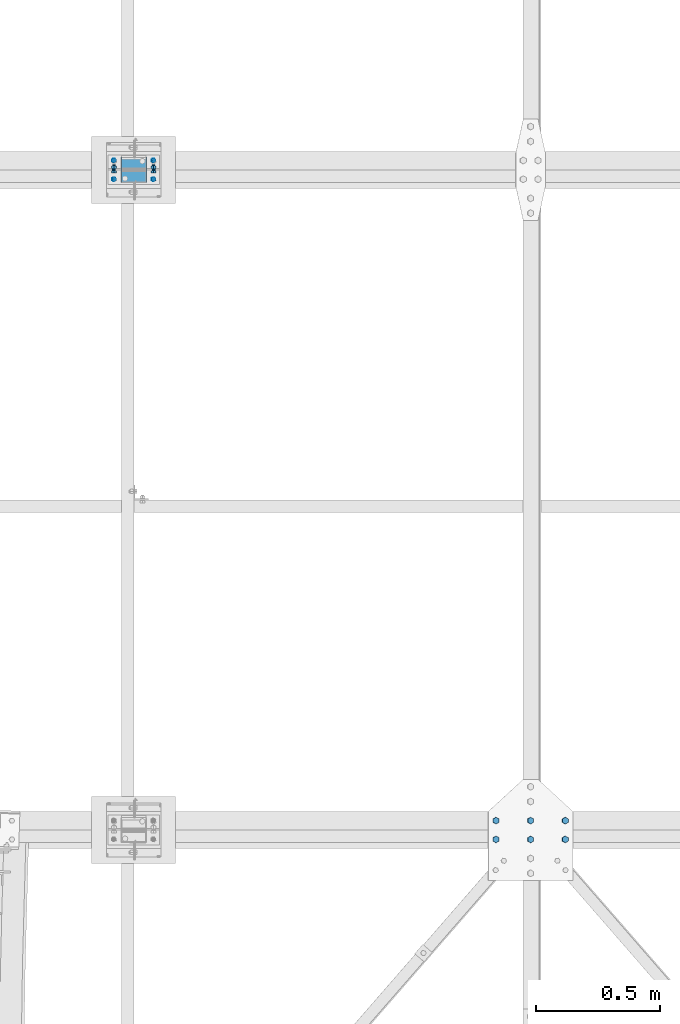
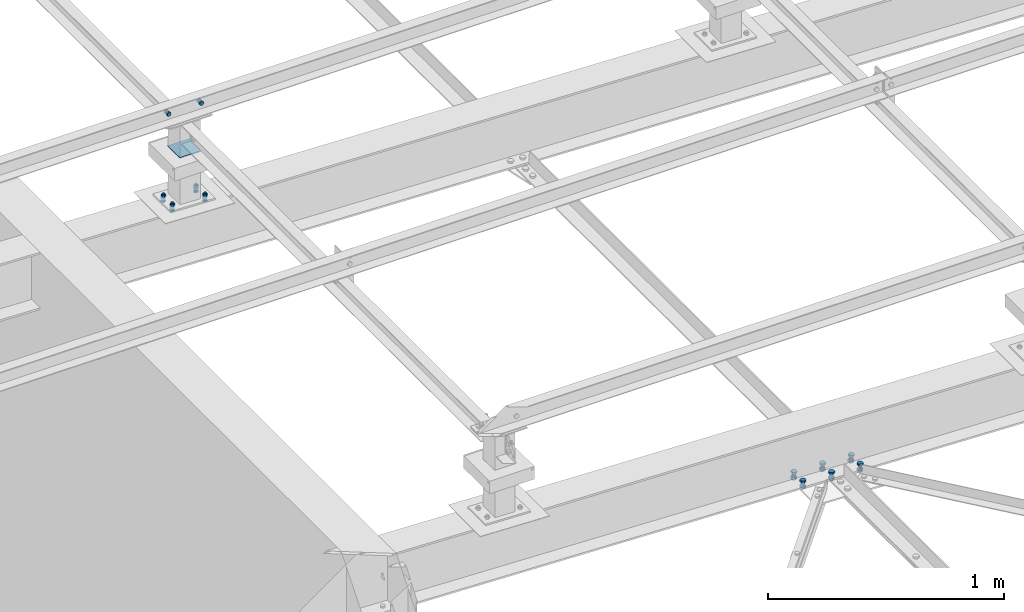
# One storey, part 171 of 3134: 5 mechanical fasteners, 4 elements without a shape of their own.
"""IFC2X3 building model written with IfcOpenShell, lengths in millimetres."""

from ifc_helpers import new_model, si_unit, frame, origin_with_axes, place, context, subcontext, project, spatial, faceted_brep, source, transform, mapped, material, type_object, element, aggregate, save


model = new_model("IFC2X3")

# Units and contexts
model_context = context("Model", 3, precision=1e-05, world=origin_with_axes())
body_context = subcontext(model_context, "Body", "Model", "MODEL_VIEW")
ifc_project = project(units=[si_unit("LENGTHUNIT", "METRE", prefix="MILLI"), si_unit("AREAUNIT", "SQUARE_METRE"), si_unit("VOLUMEUNIT", "CUBIC_METRE"), si_unit("MASSUNIT", "GRAM", prefix="KILO"), si_unit("TIMEUNIT", "SECOND"), si_unit("PLANEANGLEUNIT", "RADIAN"), si_unit("SOLIDANGLEUNIT", "STERADIAN"), si_unit("THERMODYNAMICTEMPERATUREUNIT", "DEGREE_CELSIUS"), si_unit("LUMINOUSINTENSITYUNIT", "LUMEN")], contexts=[model_context])

# Site, building, storey
site_placement = place(None, origin_with_axes())
site = spatial("IfcSite", under=ifc_project, at=site_placement, CompositionType="ELEMENT")
building_placement = place(site_placement, origin_with_axes())
building = spatial("IfcBuilding", under=site, at=building_placement, Name="Undefined", CompositionType="ELEMENT")
storey_placement = place(building_placement, origin_with_axes())
storey = spatial("IfcBuildingStorey", under=building, at=storey_placement, Name="Undefined", CompositionType="ELEMENT", Elevation=0.0)

# Assembly, mechanical fastener
assembly_1_placement = place(storey_placement, origin_with_axes())
assembly_1 = element("IfcElementAssembly", 1, at=assembly_1_placement, inside=storey, Name="300", AssemblyPlace="NOTDEFINED", PredefinedType="RIGID_FRAME")
ifc_material_1 = material(Name="8.8")
mechanical_fastener_type = type_object("IfcMechanicalFastenerType", Name="Bolt assembly")
shared_shape_1 = source(origin_with_axes(), body_context, "Body", "Brep", [
    faceted_brep([(13.856406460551, -23.2000817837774, 0.0), (6.92820323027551, -23.2000817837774, 12.0), (-6.92820323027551, -23.2000817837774, 12.0), (-13.856406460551, -23.2000817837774, 1.69692038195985e-15), (-6.92820323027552, -23.2000817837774, -12.0), (6.9282032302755, -23.2000817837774, -12.0), (6.9282032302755, -13.2000817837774, -12.0), (-6.92820323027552, -13.2000817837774, -12.0), (-13.856406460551, -13.2000817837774, 1.69692038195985e-15), (-6.92820323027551, -13.2000817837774, 12.0), (6.92820323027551, -13.2000817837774, 12.0), (13.856406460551, -13.2000817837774, 0.0), (8.0, -13.2000817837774, 0.0), (6.92820323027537, -13.2000817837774, 4.00000000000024), (3.99999999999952, -13.2000817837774, 6.92820323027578), (-8.29068785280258e-13, -13.2000817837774, 8.0), (-4.00000000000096, -13.2000817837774, 6.92820323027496), (-6.9282032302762, -13.2000817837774, 3.99999999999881), (-8.0, -13.2000817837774, -1.65813757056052e-12), (-6.92820323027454, -13.2000817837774, -4.00000000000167), (-3.99999999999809, -13.2000817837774, -6.92820323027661), (2.47832457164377e-12, -13.2000817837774, -8.0), (4.00000000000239, -13.2000817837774, -6.92820323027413), (6.92820323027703, -13.2000817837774, -3.99999999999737), (6.92820323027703, 21.7999182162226, -3.99999999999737), (4.00000000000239, 21.7999182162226, -6.92820323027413), (2.47832457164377e-12, 21.7999182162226, -8.0), (-3.99999999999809, 21.7999182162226, -6.92820323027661), (-6.92820323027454, 21.7999182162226, -4.00000000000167), (-8.0, 21.7999182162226, -1.65813757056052e-12), (-6.9282032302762, 21.7999182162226, 3.99999999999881), (-4.00000000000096, 21.7999182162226, 6.92820323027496), (-8.29068785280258e-13, 21.7999182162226, 8.0), (3.99999999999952, 21.7999182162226, 6.92820323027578), (6.92820323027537, 21.7999182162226, 4.00000000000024), (8.0, 21.7999182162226, 0.0), (13.856406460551, 3.99999999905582, 0.0), (6.92820323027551, 3.99999999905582, 12.0), (-6.92820323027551, 3.99999999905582, 12.0), (-13.856406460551, 3.99999999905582, 1.69692038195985e-15), (-6.92820323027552, 3.99999999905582, -12.0), (6.9282032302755, 3.99999999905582, -12.0), (6.9282032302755, 16.9999999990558, -12.0), (-6.92820323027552, 16.9999999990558, -12.0), (-13.856406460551, 16.9999999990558, 1.69692038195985e-15), (-6.92820323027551, 16.9999999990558, 12.0), (6.92820323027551, 16.9999999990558, 12.0), (13.856406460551, 16.9999999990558, 0.0)], [[[0, 1, 2, 3, 4, 5]], [[6, 7, 8, 9, 10, 11]], [[0, 11, 10, 1]], [[1, 10, 9, 2]], [[2, 9, 8, 3]], [[3, 8, 7, 4]], [[4, 7, 6, 5]], [[5, 6, 11, 0]], [[12, 13, 14, 15, 16, 17, 18, 19, 20, 21, 22, 23]], [[24, 25, 26, 27, 28, 29, 30, 31, 32, 33, 34, 35]], [[12, 35, 34, 13]], [[13, 34, 33, 14]], [[14, 33, 32, 15]], [[15, 32, 31, 16]], [[16, 31, 30, 17]], [[17, 30, 29, 18]], [[18, 29, 28, 19]], [[19, 28, 27, 20]], [[20, 27, 26, 21]], [[21, 26, 25, 22]], [[22, 25, 24, 23]], [[23, 24, 35, 12]], [[36, 37, 38, 39, 40, 41]], [[42, 43, 44, 45, 46, 47]], [[36, 47, 46, 37]], [[37, 46, 45, 38]], [[38, 45, 44, 39]], [[39, 44, 43, 40]], [[40, 43, 42, 41]], [[41, 42, 47, 36]]]),
    faceted_brep([(9.0, -4.10000000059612, 0.0), (7.79422863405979, -4.10000000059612, 4.50000000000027), (4.49999999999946, -4.10000000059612, 7.79422863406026), (-9.3270238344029e-13, -4.10000000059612, 9.0), (-4.50000000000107, -4.10000000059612, 7.79422863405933), (-7.79422863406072, -4.10000000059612, 4.49999999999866), (-9.0, -4.10000000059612, -1.86540476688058e-12), (-7.79422863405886, -4.10000000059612, -4.50000000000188), (-4.49999999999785, -4.10000000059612, -7.79422863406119), (2.78811514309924e-12, -4.10000000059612, -9.0), (4.50000000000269, -4.10000000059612, -7.7942286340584), (7.79422863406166, -4.10000000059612, -4.49999999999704), (7.79422863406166, 4.00000375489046, -4.49999999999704), (4.50000000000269, 4.00000375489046, -7.7942286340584), (2.78811514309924e-12, 4.00000375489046, -9.0), (-4.49999999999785, 4.00000375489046, -7.79422863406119), (-7.79422863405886, 4.00000375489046, -4.50000000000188), (-9.0, 4.00000375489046, -1.86540476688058e-12), (-7.79422863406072, 4.00000375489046, 4.49999999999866), (-4.50000000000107, 4.00000375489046, 7.79422863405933), (-9.3270238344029e-13, 4.00000375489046, 9.0), (4.49999999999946, 4.00000375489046, 7.79422863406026), (7.79422863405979, 4.00000375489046, 4.50000000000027), (9.0, 4.00000375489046, 0.0), (9.0, -13.1000817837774, 0.0), (7.79422863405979, -13.1000817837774, 4.50000000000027), (4.49999999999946, -13.1000817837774, 7.79422863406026), (-9.3270238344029e-13, -13.1000817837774, 9.0), (-4.50000000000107, -13.1000817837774, 7.79422863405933), (-7.79422863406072, -13.1000817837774, 4.49999999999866), (-9.0, -13.1000817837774, -1.86540476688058e-12), (-7.79422863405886, -13.1000817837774, -4.50000000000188), (-4.49999999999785, -13.1000817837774, -7.79422863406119), (2.78811514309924e-12, -13.1000817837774, -9.0), (4.50000000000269, -13.1000817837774, -7.7942286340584), (7.79422863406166, -13.1000817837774, -4.49999999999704), (7.79422863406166, -3.90008197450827, -4.49999999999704), (4.50000000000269, -3.90008197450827, -7.7942286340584), (2.78811514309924e-12, -3.90008197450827, -9.0), (-4.49999999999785, -3.90008197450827, -7.79422863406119), (-7.79422863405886, -3.90008197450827, -4.50000000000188), (-9.0, -3.90008197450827, -1.86540476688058e-12), (-7.79422863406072, -3.90008197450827, 4.49999999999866), (-4.50000000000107, -3.90008197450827, 7.79422863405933), (-9.3270238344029e-13, -3.90008197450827, 9.0), (4.49999999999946, -3.90008197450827, 7.79422863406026), (7.79422863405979, -3.90008197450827, 4.50000000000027), (9.0, -3.90008197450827, 0.0)], [[[0, 1, 2, 3, 4, 5, 6, 7, 8, 9, 10, 11]], [[12, 13, 14, 15, 16, 17, 18, 19, 20, 21, 22, 23]], [[0, 23, 22, 1]], [[1, 22, 21, 2]], [[2, 21, 20, 3]], [[3, 20, 19, 4]], [[4, 19, 18, 5]], [[5, 18, 17, 6]], [[6, 17, 16, 7]], [[7, 16, 15, 8]], [[8, 15, 14, 9]], [[9, 14, 13, 10]], [[10, 13, 12, 11]], [[11, 12, 23, 0]], [[24, 25, 26, 27, 28, 29, 30, 31, 32, 33, 34, 35]], [[36, 37, 38, 39, 40, 41, 42, 43, 44, 45, 46, 47]], [[24, 47, 46, 25]], [[25, 46, 45, 26]], [[26, 45, 44, 27]], [[27, 44, 43, 28]], [[28, 43, 42, 29]], [[29, 42, 41, 30]], [[30, 41, 40, 31]], [[31, 40, 39, 32]], [[32, 39, 38, 33]], [[33, 38, 37, 34]], [[34, 37, 36, 35]], [[35, 36, 47, 24]]]),
])
mechanical_fastener_1_placement = place(assembly_1_placement, frame((4647.50483518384, 34950.5, 3576.15051900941), z_axis=(0.999388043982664, 0.0, -0.0349791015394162), x_axis=(0.0, -1.0, 0.0)))
mechanical_fastener_1 = element("IfcMechanicalFastener", 2, at=mechanical_fastener_1_placement, type_object=mechanical_fastener_type, material=ifc_material_1, Name="Bolt assembly", NominalDiameter=16.0, NominalLength=35.0, context=body_context, shape_type="MappedRepresentation", body=[
    mapped(shared_shape_1, transform((0.0, -2.37378117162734e-10, 139.99999999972))),
    mapped(shared_shape_1, transform((76.0, -2.37378117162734e-10, 139.99999999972))),
    mapped(shared_shape_1, transform((0.0, 0.0, 0.0))),
    mapped(shared_shape_1, transform((76.0, 0.0, 0.0))),
    mapped(shared_shape_1, transform((0.0, 2.38287611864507e-10, -139.999999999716))),
    mapped(shared_shape_1, transform((76.0, 2.38287611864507e-10, -139.999999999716))),
])
aggregate(assembly_1, [mechanical_fastener_1])

assembly_2_placement = place(storey_placement, origin_with_axes())
assembly_2 = element("IfcElementAssembly", 3, at=assembly_2_placement, inside=storey, AssemblyPlace="NOTDEFINED", PredefinedType="RIGID_FRAME")
shared_shape_2 = source(origin_with_axes(), body_context, "Body", "Brep", [
    faceted_brep([(10.9696551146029, -4.1972538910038, 0.0), (5.48482755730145, -4.1972538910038, 9.5), (-5.48482755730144, -4.1972538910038, 9.5), (-10.9696551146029, -4.1972538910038, 1.34339530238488e-15), (-5.48482755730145, -4.1972538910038, -9.5), (5.48482755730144, -4.1972538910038, -9.50000000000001), (5.48482755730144, 3.8027461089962, -9.50000000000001), (-5.48482755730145, 3.8027461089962, -9.5), (-10.9696551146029, 3.8027461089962, 1.34339530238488e-15), (-5.48482755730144, 3.8027461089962, 9.5), (5.48482755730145, 3.8027461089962, 9.5), (10.9696551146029, 3.8027461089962, 0.0), (6.0, 3.8027461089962, 0.0), (5.19615242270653, 3.8027461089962, 3.00000000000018), (2.99999999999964, 3.8027461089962, 5.19615242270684), (-6.21801588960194e-13, 3.8027461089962, 6.0), (-3.00000000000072, 3.8027461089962, 5.19615242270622), (-5.19615242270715, 3.8027461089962, 2.9999999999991), (-6.0, 3.8027461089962, -1.24360317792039e-12), (-5.19615242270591, 3.8027461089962, -3.00000000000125), (-2.99999999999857, 3.8027461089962, -5.19615242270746), (1.85874342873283e-12, 3.8027461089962, -6.0), (3.00000000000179, 3.8027461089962, -5.1961524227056), (5.19615242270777, 3.8027461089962, -2.99999999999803), (5.19615242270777, 38.8027461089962, -2.99999999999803), (3.00000000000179, 38.8027461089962, -5.1961524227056), (1.85874342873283e-12, 38.8027461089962, -6.0), (-2.99999999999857, 38.8027461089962, -5.19615242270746), (-5.19615242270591, 38.8027461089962, -3.00000000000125), (-6.0, 38.8027461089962, -1.24360317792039e-12), (-5.19615242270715, 38.8027461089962, 2.9999999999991), (-3.00000000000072, 38.8027461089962, 5.19615242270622), (-6.21801588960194e-13, 38.8027461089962, 6.0), (2.99999999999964, 38.8027461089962, 5.19615242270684), (5.19615242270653, 38.8027461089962, 3.00000000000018), (6.0, 38.8027461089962, 0.0), (10.9696551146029, 23.0139082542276, 0.0), (5.48482755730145, 23.0139082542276, 9.5), (-5.48482755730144, 23.0139082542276, 9.5), (-10.9696551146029, 23.0139082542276, 1.34339530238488e-15), (-5.48482755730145, 23.0139082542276, -9.5), (5.48482755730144, 23.0139082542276, -9.50000000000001), (5.48482755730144, 33.0139082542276, -9.50000000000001), (-5.48482755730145, 33.0139082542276, -9.5), (-10.9696551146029, 33.0139082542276, 1.34339530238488e-15), (-5.48482755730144, 33.0139082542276, 9.5), (5.48482755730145, 33.0139082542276, 9.5), (10.9696551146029, 33.0139082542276, 0.0)], [[[0, 1, 2, 3, 4, 5]], [[6, 7, 8, 9, 10, 11]], [[0, 11, 10, 1]], [[1, 10, 9, 2]], [[2, 9, 8, 3]], [[3, 8, 7, 4]], [[4, 7, 6, 5]], [[5, 6, 11, 0]], [[12, 13, 14, 15, 16, 17, 18, 19, 20, 21, 22, 23]], [[24, 25, 26, 27, 28, 29, 30, 31, 32, 33, 34, 35]], [[12, 35, 34, 13]], [[13, 34, 33, 14]], [[14, 33, 32, 15]], [[15, 32, 31, 16]], [[16, 31, 30, 17]], [[17, 30, 29, 18]], [[18, 29, 28, 19]], [[19, 28, 27, 20]], [[20, 27, 26, 21]], [[21, 26, 25, 22]], [[22, 25, 24, 23]], [[23, 24, 35, 12]], [[36, 37, 38, 39, 40, 41]], [[42, 43, 44, 45, 46, 47]], [[36, 47, 46, 37]], [[37, 46, 45, 38]], [[38, 45, 44, 39]], [[39, 44, 43, 40]], [[40, 43, 42, 41]], [[41, 42, 47, 36]]]),
    faceted_brep([(7.0, 3.9027461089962, 0.0), (6.06217782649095, 3.9027461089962, 3.50000000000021), (3.49999999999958, 3.9027461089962, 6.06217782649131), (-7.25435187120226e-13, 3.9027461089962, 7.0), (-3.50000000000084, 3.9027461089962, 6.06217782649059), (-6.06217782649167, 3.9027461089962, 3.49999999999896), (-7.0, 3.9027461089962, -1.45087037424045e-12), (-6.06217782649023, 3.9027461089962, -3.50000000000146), (-3.49999999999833, 3.9027461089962, -6.06217782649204), (2.1685340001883e-12, 3.9027461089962, -7.0), (3.50000000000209, 3.9027461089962, -6.06217782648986), (6.0621778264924, 3.9027461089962, -3.4999999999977), (6.0621778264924, 13.1027459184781, -3.4999999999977), (3.50000000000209, 13.1027459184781, -6.06217782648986), (2.1685340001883e-12, 13.1027459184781, -7.0), (-3.49999999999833, 13.1027459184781, -6.06217782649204), (-6.06217782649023, 13.1027459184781, -3.50000000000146), (-7.0, 13.1027459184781, -1.45087037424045e-12), (-6.06217782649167, 13.1027459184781, 3.49999999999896), (-3.50000000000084, 13.1027459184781, 6.06217782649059), (-7.25435187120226e-13, 13.1027459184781, 7.0), (3.49999999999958, 13.1027459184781, 6.06217782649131), (6.06217782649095, 13.1027459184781, 3.50000000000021), (7.0, 13.1027459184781, 0.0), (7.0, 14.9139082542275, 0.0), (6.06217782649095, 14.9139082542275, 3.50000000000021), (3.49999999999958, 14.9139082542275, 6.06217782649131), (-7.25435187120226e-13, 14.9139082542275, 7.0), (-3.50000000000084, 14.9139082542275, 6.06217782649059), (-6.06217782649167, 14.9139082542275, 3.49999999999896), (-7.0, 14.9139082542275, -1.45087037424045e-12), (-6.06217782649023, 14.9139082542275, -3.50000000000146), (-3.49999999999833, 14.9139082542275, -6.06217782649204), (2.1685340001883e-12, 14.9139082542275, -7.0), (3.50000000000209, 14.9139082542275, -6.06217782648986), (6.0621778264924, 14.9139082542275, -3.4999999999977), (6.0621778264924, 23.0139082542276, -3.4999999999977), (3.50000000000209, 23.0139082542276, -6.06217782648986), (2.1685340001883e-12, 23.0139082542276, -7.0), (-3.49999999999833, 23.0139082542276, -6.06217782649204), (-6.06217782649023, 23.0139082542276, -3.50000000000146), (-7.0, 23.0139082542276, -1.45087037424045e-12), (-6.06217782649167, 23.0139082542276, 3.49999999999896), (-3.50000000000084, 23.0139082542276, 6.06217782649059), (-7.25435187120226e-13, 23.0139082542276, 7.0), (3.49999999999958, 23.0139082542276, 6.06217782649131), (6.06217782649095, 23.0139082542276, 3.50000000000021), (7.0, 23.0139082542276, 0.0)], [[[0, 1, 2, 3, 4, 5, 6, 7, 8, 9, 10, 11]], [[12, 13, 14, 15, 16, 17, 18, 19, 20, 21, 22, 23]], [[0, 23, 22, 1]], [[1, 22, 21, 2]], [[2, 21, 20, 3]], [[3, 20, 19, 4]], [[4, 19, 18, 5]], [[5, 18, 17, 6]], [[6, 17, 16, 7]], [[7, 16, 15, 8]], [[8, 15, 14, 9]], [[9, 14, 13, 10]], [[10, 13, 12, 11]], [[11, 12, 23, 0]], [[24, 25, 26, 27, 28, 29, 30, 31, 32, 33, 34, 35]], [[36, 37, 38, 39, 40, 41, 42, 43, 44, 45, 46, 47]], [[24, 47, 46, 25]], [[25, 46, 45, 26]], [[26, 45, 44, 27]], [[27, 44, 43, 28]], [[28, 43, 42, 29]], [[29, 42, 41, 30]], [[30, 41, 40, 31]], [[31, 40, 39, 32]], [[32, 39, 38, 33]], [[33, 38, 37, 34]], [[34, 37, 36, 35]], [[35, 36, 47, 24]]]),
])
mechanical_fastener_2_placement = place(assembly_2_placement, frame((3042.5231765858, 37619.2499999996, 3920.50000668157), z_axis=(-0.999387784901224, 0.0, 0.0349865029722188), x_axis=(0.0, -1.0, 0.0)))
mechanical_fastener_2 = element("IfcMechanicalFastener", 4, at=mechanical_fastener_2_placement, type_object=mechanical_fastener_type, material=ifc_material_1, Name="Bolt assembly", NominalDiameter=12.0, NominalLength=35.0, context=body_context, shape_type="MappedRepresentation", body=[
    mapped(shared_shape_2, transform((0.0, -5.32963895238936e-10, -79.9999999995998))),
    mapped(shared_shape_2, transform((76.0, -5.32963895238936e-10, -79.9999999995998))),
    mapped(shared_shape_2, transform((0.0, 5.3114490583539e-10, 79.9999999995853))),
    mapped(shared_shape_2, transform((76.0, 5.3114490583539e-10, 79.9999999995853))),
])

assembly_3_placement = place(storey_placement, origin_with_axes())
assembly_3 = element("IfcElementAssembly", 5, at=assembly_3_placement, inside=storey, AssemblyPlace="NOTDEFINED", PredefinedType="RIGID_FRAME")
shared_shape_3 = source(origin_with_axes(), body_context, "Body", "Brep", [
    faceted_brep([(7.0, 13.0000253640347, 0.0), (6.06217782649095, 13.0000253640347, 3.50000000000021), (3.49999999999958, 13.0000253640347, 6.06217782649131), (-7.25435187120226e-13, 13.0000253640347, 7.0), (-3.50000000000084, 13.0000253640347, 6.06217782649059), (-6.06217782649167, 13.0000253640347, 3.49999999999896), (-7.0, 13.0000253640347, -1.45087037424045e-12), (-6.06217782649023, 13.0000253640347, -3.50000000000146), (-3.49999999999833, 13.0000253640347, -6.06217782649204), (2.1685340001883e-12, 13.0000253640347, -7.0), (3.50000000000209, 13.0000253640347, -6.06217782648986), (6.0621778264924, 13.0000253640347, -3.4999999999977), (6.0621778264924, 15.0999999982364, -3.4999999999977), (3.50000000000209, 15.0999999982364, -6.06217782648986), (2.1685340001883e-12, 15.0999999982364, -7.0), (-3.49999999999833, 15.0999999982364, -6.06217782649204), (-6.06217782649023, 15.0999999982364, -3.50000000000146), (-7.0, 15.0999999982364, -1.45087037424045e-12), (-6.06217782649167, 15.0999999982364, 3.49999999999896), (-3.50000000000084, 15.0999999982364, 6.06217782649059), (-7.25435187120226e-13, 15.0999999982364, 7.0), (3.49999999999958, 15.0999999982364, 6.06217782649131), (6.06217782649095, 15.0999999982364, 3.50000000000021), (7.0, 15.0999999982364, 0.0)], [[[0, 1, 2, 3, 4, 5, 6, 7, 8, 9, 10, 11]], [[12, 13, 14, 15, 16, 17, 18, 19, 20, 21, 22, 23]], [[0, 23, 22, 1]], [[1, 22, 21, 2]], [[2, 21, 20, 3]], [[3, 20, 19, 4]], [[4, 19, 18, 5]], [[5, 18, 17, 6]], [[6, 17, 16, 7]], [[7, 16, 15, 8]], [[8, 15, 14, 9]], [[9, 14, 13, 10]], [[10, 13, 12, 11]], [[11, 12, 23, 0]]]),
])
mechanical_fastener_3_placement = place(assembly_3_placement, frame((3042.5231765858, 37619.2499999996, 3920.50000668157), z_axis=(-0.999387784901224, 0.0, 0.0349865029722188), x_axis=(0.0, -1.0, 0.0)))
mechanical_fastener_3 = element("IfcMechanicalFastener", 6, at=mechanical_fastener_3_placement, type_object=mechanical_fastener_type, material=ifc_material_1, Name="Bolt assembly", NominalDiameter=12.0, NominalLength=2.0, context=body_context, shape_type="MappedRepresentation", body=[
    mapped(shared_shape_3, transform((0.0, -5.32963895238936e-10, -79.9999999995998))),
    mapped(shared_shape_3, transform((76.0, -5.32963895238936e-10, -79.9999999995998))),
    mapped(shared_shape_3, transform((0.0, 5.3114490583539e-10, 79.9999999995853))),
    mapped(shared_shape_3, transform((76.0, 5.3114490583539e-10, 79.9999999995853))),
])
aggregate(assembly_3, [mechanical_fastener_3])

# Mechanical fastener
ifc_material_2 = material(Name="6.8")
shared_shape_4 = source(origin_with_axes(), body_context, "Body", "Brep", [
    faceted_brep([(51.5, 1.36424205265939e-12, 50.0), (51.3858192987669, 1.36424205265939e-12, 50.5740251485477), (51.0606601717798, 1.36424205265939e-12, 51.0606601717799), (50.5740251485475, 1.36424205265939e-12, 51.385819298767), (-50.0000000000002, 1.36424205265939e-12, 51.5), (-50.7500000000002, 1.36424205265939e-12, 51.2990381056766), (-51.2990381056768, 1.36424205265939e-12, 50.7499999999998), (-51.5, 1.36424205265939e-12, 49.9999999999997), (-51.5, 1.36424205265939e-12, -50.0000000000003), (-51.2990381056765, 1.36424205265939e-12, -50.7500000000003), (-50.7499999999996, 1.36424205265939e-12, -51.2990381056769), (-49.9999999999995, 1.36424205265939e-12, -51.5), (50.0000000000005, 1.36424205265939e-12, -51.5), (50.7500000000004, 1.36424205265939e-12, -51.2990381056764), (51.2990381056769, 1.36424205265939e-12, -50.7499999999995), (51.5, 1.36424205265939e-12, -49.9999999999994), (51.5, 5.10000000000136, -49.9999999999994), (51.2990381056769, 5.10000000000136, -50.7499999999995), (50.7500000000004, 5.10000000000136, -51.2990381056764), (50.0000000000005, 5.10000000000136, -51.5), (-49.9999999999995, 5.10000000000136, -51.5), (-50.7499999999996, 5.10000000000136, -51.2990381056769), (-51.2990381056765, 5.10000000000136, -50.7500000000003), (-51.5, 5.10000000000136, -50.0000000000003), (-51.5, 5.10000000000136, 49.9999999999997), (-51.2990381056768, 5.10000000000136, 50.7499999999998), (-50.7500000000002, 5.10000000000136, 51.2990381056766), (-50.0000000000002, 5.10000000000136, 51.5), (50.5740251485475, 5.10000000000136, 51.385819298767), (51.0606601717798, 5.10000000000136, 51.0606601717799), (51.3858192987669, 5.10000000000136, 50.5740251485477), (51.5, 5.10000000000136, 50.0)], [[[0, 1, 2, 3, 4, 5, 6, 7, 8, 9, 10, 11, 12, 13, 14, 15]], [[16, 17, 18, 19, 20, 21, 22, 23, 24, 25, 26, 27, 28, 29, 30, 31]], [[0, 31, 30, 1]], [[1, 30, 29, 2]], [[2, 29, 28, 3]], [[3, 28, 27, 4]], [[4, 27, 26, 5]], [[5, 26, 25, 6]], [[6, 25, 24, 7]], [[7, 24, 23, 8]], [[8, 23, 22, 9]], [[9, 22, 21, 10]], [[10, 21, 20, 11]], [[11, 20, 19, 12]], [[12, 19, 18, 13]], [[13, 18, 17, 14]], [[14, 17, 16, 15]], [[15, 16, 31, 0]]]),
])
mechanical_fastener_4_placement = place(assembly_2_placement, frame((3043.33, 37581.25, 4190.29), z_axis=(0.0, -1.0, 0.0), x_axis=(-1.0, 0.0, 0.0)))
mechanical_fastener_4 = element("IfcMechanicalFastener", 7, at=mechanical_fastener_4_placement, type_object=mechanical_fastener_type, material=ifc_material_2, Name="Bolt assembly", NominalDiameter=10.0, NominalLength=5.0, context=body_context, shape_type="MappedRepresentation", body=[
    mapped(shared_shape_4, transform((0.0, 0.0, 0.0))),
])

aggregate(assembly_2, [mechanical_fastener_2, mechanical_fastener_4])

# Assembly, mechanical fastener
assembly_4_placement = place(storey_placement, origin_with_axes())
assembly_4 = element("IfcElementAssembly", 8, at=assembly_4_placement, inside=storey, AssemblyPlace="NOTDEFINED", PredefinedType="RIGID_FRAME")
shared_shape_5 = source(origin_with_axes(), body_context, "Body", "Brep", [
    faceted_brep([(10.9696551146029, -12.0003169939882, 0.0), (5.48482755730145, -12.0003169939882, 9.5), (-5.48482755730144, -12.0003169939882, 9.5), (-10.9696551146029, -12.0003169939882, 1.34339530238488e-15), (-5.48482755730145, -12.0003169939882, -9.5), (5.48482755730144, -12.0003169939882, -9.50000000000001), (5.48482755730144, -4.00031699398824, -9.50000000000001), (-5.48482755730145, -4.00031699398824, -9.5), (-10.9696551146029, -4.00031699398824, 1.34339530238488e-15), (-5.48482755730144, -4.00031699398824, 9.5), (5.48482755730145, -4.00031699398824, 9.5), (10.9696551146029, -4.00031699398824, 0.0), (6.0, -4.00031699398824, 0.0), (5.19615242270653, -4.00031699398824, 3.00000000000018), (2.99999999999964, -4.00031699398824, 5.19615242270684), (-6.21801588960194e-13, -4.00031699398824, 6.0), (-3.00000000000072, -4.00031699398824, 5.19615242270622), (-5.19615242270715, -4.00031699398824, 2.9999999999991), (-6.0, -4.00031699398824, -1.24360317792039e-12), (-5.19615242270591, -4.00031699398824, -3.00000000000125), (-2.99999999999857, -4.00031699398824, -5.19615242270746), (1.85874342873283e-12, -4.00031699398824, -6.0), (3.00000000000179, -4.00031699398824, -5.1961524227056), (5.19615242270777, -4.00031699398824, -2.99999999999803), (5.19615242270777, 20.9997148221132, -2.99999999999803), (3.00000000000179, 20.9997148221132, -5.1961524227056), (1.85874342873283e-12, 20.9997148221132, -6.0), (-2.99999999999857, 20.9997148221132, -5.19615242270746), (-5.19615242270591, 20.9997148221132, -3.00000000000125), (-6.0, 20.9997148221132, -1.24360317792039e-12), (-5.19615242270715, 20.9997148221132, 2.9999999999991), (-3.00000000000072, 20.9997148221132, 5.19615242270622), (-6.21801588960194e-13, 20.9997148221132, 6.0), (2.99999999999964, 20.9997148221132, 5.19615242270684), (5.19615242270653, 20.9997148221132, 3.00000000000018), (6.0, 20.9997148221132, 0.0), (10.9696551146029, 6.00000000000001, 0.0), (5.48482755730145, 6.00000000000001, 9.5), (-5.48482755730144, 6.00000000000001, 9.5), (-10.9696551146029, 6.00000000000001, 1.34339530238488e-15), (-5.48482755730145, 6.00000000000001, -9.5), (5.48482755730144, 6.00000000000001, -9.50000000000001), (5.48482755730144, 16.0, -9.50000000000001), (-5.48482755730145, 16.0, -9.5), (-10.9696551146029, 16.0, 1.34339530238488e-15), (-5.48482755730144, 16.0, 9.5), (5.48482755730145, 16.0, 9.5), (10.9696551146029, 16.0, 0.0)], [[[0, 1, 2, 3, 4, 5]], [[6, 7, 8, 9, 10, 11]], [[0, 11, 10, 1]], [[1, 10, 9, 2]], [[2, 9, 8, 3]], [[3, 8, 7, 4]], [[4, 7, 6, 5]], [[5, 6, 11, 0]], [[12, 13, 14, 15, 16, 17, 18, 19, 20, 21, 22, 23]], [[24, 25, 26, 27, 28, 29, 30, 31, 32, 33, 34, 35]], [[12, 35, 34, 13]], [[13, 34, 33, 14]], [[14, 33, 32, 15]], [[15, 32, 31, 16]], [[16, 31, 30, 17]], [[17, 30, 29, 18]], [[18, 29, 28, 19]], [[19, 28, 27, 20]], [[20, 27, 26, 21]], [[21, 26, 25, 22]], [[22, 25, 24, 23]], [[23, 24, 35, 12]], [[36, 37, 38, 39, 40, 41]], [[42, 43, 44, 45, 46, 47]], [[36, 47, 46, 37]], [[37, 46, 45, 38]], [[38, 45, 44, 39]], [[39, 44, 43, 40]], [[40, 43, 42, 41]], [[41, 42, 47, 36]]]),
    faceted_brep([(7.0, -3.90031233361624, 0.0), (6.06217782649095, -3.90027629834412, 3.50000000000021), (3.49999999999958, -3.90031233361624, 6.06217782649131), (-7.25435187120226e-13, -3.90027629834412, 7.0), (-3.50000000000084, -3.90027629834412, 6.06217782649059), (-6.06217782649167, -3.90027629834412, 3.49999999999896), (-7.0, -3.90031233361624, -1.45087037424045e-12), (-6.06217782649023, -3.90027629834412, -3.50000000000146), (-3.49999999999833, -3.90027629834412, -6.06217782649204), (2.1685340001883e-12, -3.90027629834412, -7.0), (3.50000000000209, -3.90027629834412, -6.06217782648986), (6.0621778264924, -3.90031233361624, -3.4999999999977), (6.0621778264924, 0.0996830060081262, -3.4999999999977), (3.50000000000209, 0.0996830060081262, -6.06217782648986), (2.1685340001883e-12, 0.0996830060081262, -7.0), (-3.49999999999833, 0.0996830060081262, -6.06217782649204), (-6.06217782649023, 0.0996830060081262, -3.50000000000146), (-7.0, 0.0996830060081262, -1.45087037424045e-12), (-6.06217782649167, 0.0997148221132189, 3.49999999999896), (-3.50000000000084, 0.0997148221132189, 6.06217782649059), (-7.25435187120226e-13, 0.0996830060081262, 7.0), (3.49999999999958, 0.0996830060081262, 6.06217782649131), (6.06217782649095, 0.0996830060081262, 3.50000000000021), (7.0, 0.0997148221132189, 0.0), (7.0, -0.1, 0.0), (6.06217782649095, -0.1, 3.50000000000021), (3.49999999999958, -0.1, 6.06217782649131), (-7.25435187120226e-13, -0.1, 7.0), (-3.50000000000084, -0.1, 6.06217782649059), (-6.06217782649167, -0.1, 3.49999999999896), (-7.0, -0.1, -1.45087037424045e-12), (-6.06217782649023, -0.1, -3.50000000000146), (-3.49999999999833, -0.1, -6.06217782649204), (2.1685340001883e-12, -0.1, -7.0), (3.50000000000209, -0.1, -6.06217782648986), (6.0621778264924, -0.1, -3.4999999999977), (6.0621778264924, 6.00000000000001, -3.4999999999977), (3.50000000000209, 6.00000000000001, -6.06217782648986), (2.1685340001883e-12, 6.00000000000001, -7.0), (-3.49999999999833, 6.00000000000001, -6.06217782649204), (-6.06217782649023, 6.00000000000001, -3.50000000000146), (-7.0, 6.00000000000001, -1.45087037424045e-12), (-6.06217782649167, 6.00000000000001, 3.49999999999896), (-3.50000000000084, 6.00000000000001, 6.06217782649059), (-7.25435187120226e-13, 6.00000000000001, 7.0), (3.49999999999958, 6.00000000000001, 6.06217782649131), (6.06217782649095, 6.00000000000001, 3.50000000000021), (7.0, 6.00000000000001, 0.0)], [[[0, 1, 2, 3, 4, 5, 6, 7, 8, 9, 10, 11]], [[12, 13, 14, 15, 16, 17, 18, 19, 20, 21, 22, 23]], [[0, 23, 22, 1]], [[1, 22, 21, 2]], [[2, 21, 20, 3]], [[3, 20, 19, 4]], [[4, 19, 18, 5]], [[5, 18, 17, 6]], [[6, 17, 16, 7]], [[7, 16, 15, 8]], [[8, 15, 14, 9]], [[9, 14, 13, 10]], [[10, 13, 12, 11]], [[11, 12, 23, 0]], [[24, 25, 26, 27, 28, 29, 30, 31, 32, 33, 34, 35]], [[36, 37, 38, 39, 40, 41, 42, 43, 44, 45, 46, 47]], [[24, 47, 46, 25]], [[25, 46, 45, 26]], [[26, 45, 44, 27]], [[27, 44, 43, 28]], [[28, 43, 42, 29]], [[29, 42, 41, 30]], [[30, 41, 40, 31]], [[31, 40, 39, 32]], [[32, 39, 38, 33]], [[33, 38, 37, 34]], [[34, 37, 36, 35]], [[35, 36, 47, 24]]]),
])
mechanical_fastener_5_placement = place(assembly_4_placement, frame((3043.33, 37581.25, 4400.0), z_axis=(1.0, 0.0, 0.0), x_axis=(0.0, 0.0, -1.0)))
mechanical_fastener_5 = element("IfcMechanicalFastener", 9, at=mechanical_fastener_5_placement, type_object=mechanical_fastener_type, material=ifc_material_1, Name="Bolt assembly", NominalDiameter=12.0, NominalLength=25.0, context=body_context, shape_type="MappedRepresentation", body=[
    mapped(shared_shape_5, transform((0.0, -5.32963895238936e-10, -79.9999999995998))),
    mapped(shared_shape_5, transform((0.0, 5.3114490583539e-10, 79.9999999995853))),
])
aggregate(assembly_4, [mechanical_fastener_5])

save(model, "model.ifc")
